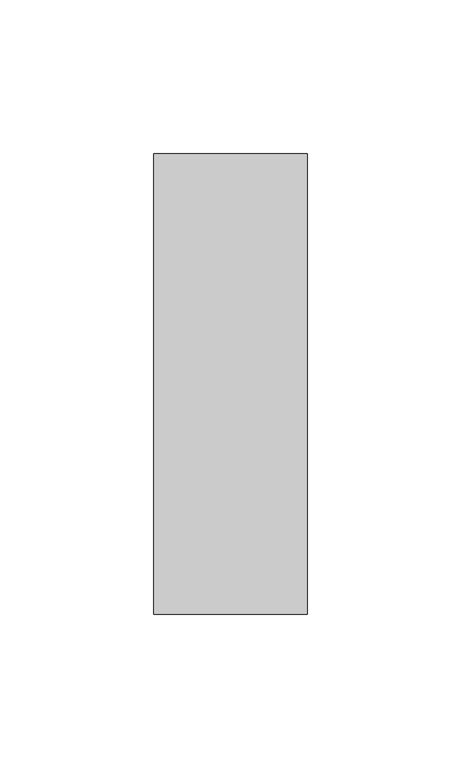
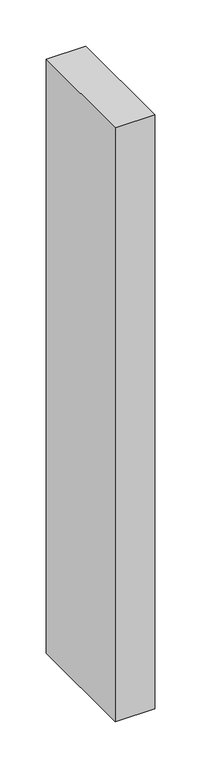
"""IFC4 building model written with IfcOpenShell, lengths in millimetres: member geometry, Прямоугольный импост : 50 x 150 мм."""

from ifc_helpers import new_model, si_unit, frame, origin, place, context, project, spatial, polyline, outline, extrude, source, transform, mapped, element, save


def member_4906cb40(model_context):
    return source(origin(), model_context, "Body", "SweptSolid", [
        extrude(outline(polyline([(25.0, 75.0), (25.0, -75.0), (-25.0, -75.0), (-25.0, 75.0), (25.0, 75.0)])), frame((0.0, 0.0, -788.2980482), z_axis=(0.0, 0.0, 1.0), x_axis=(1.0, 0.0, 0.0)), (0.0, 0.0, 1.0), 788.2980482),
    ])


if __name__ == "__main__":
    model = new_model("IFC4")
    model_context = context("Model", 3, world=origin())
    ifc_project = project(units=[si_unit("LENGTHUNIT", "METRE", prefix="MILLI")], contexts=[model_context])
    site = spatial("IfcSite", under=ifc_project)
    building = spatial("IfcBuilding", under=site)
    placement = place(None, origin())
    member_shape = member_4906cb40(model_context)
    element("IfcMember", 1, ObjectType="Прямоугольный импост : 50 x 150 мм", at=placement, inside=building, context=model_context, shape_type="MappedRepresentation", body=[
        mapped(member_shape, transform((0.0, 0.0, 0.0), x_axis=(1.0, 0.0, 0.0), y_axis=(0.0, 1.0, 0.0), z_axis=(0.0, 0.0, 1.0))),
    ])
    save(model, "model.ifc")
